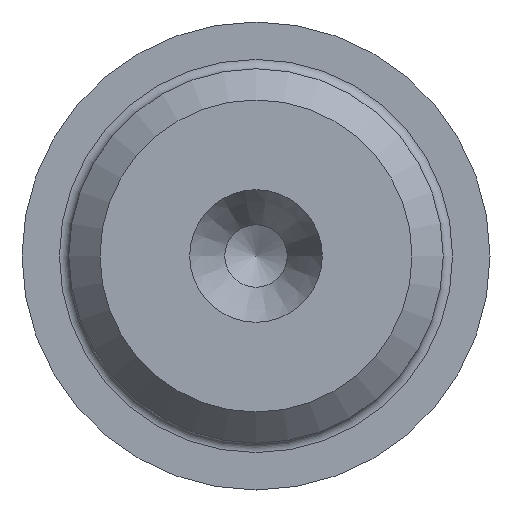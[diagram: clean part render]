
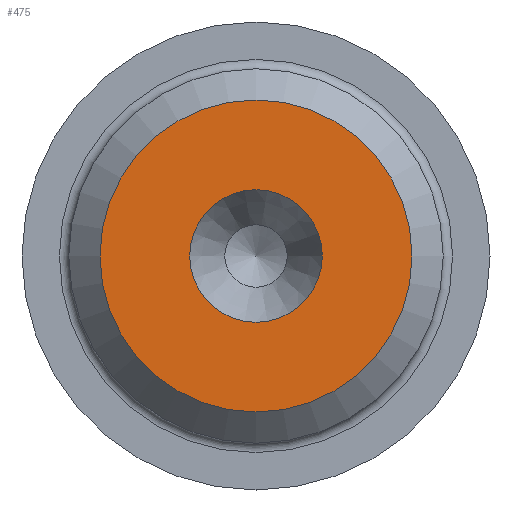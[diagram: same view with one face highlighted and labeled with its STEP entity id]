
A CAD part, left-side view. The second image highlights one B-rep face of the part: STEP entity #475.
In plain terms, the highlighted planar face has unit normal (-1, 0, 0).
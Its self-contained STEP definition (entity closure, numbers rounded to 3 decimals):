
#40=FACE_BOUND('',#92,.T.);
#47=PLANE('',#532);
#60=FACE_OUTER_BOUND('',#91,.T.);
#91=EDGE_LOOP('',(#335));
#92=EDGE_LOOP('',(#336));
#188=CIRCLE('',#531,5.);
#189=CIRCLE('',#533,2.125);
#216=VERTEX_POINT('',#742);
#217=VERTEX_POINT('',#746);
#264=EDGE_CURVE('',#216,#216,#188,.T.);
#265=EDGE_CURVE('',#217,#217,#189,.T.);
#335=ORIENTED_EDGE('',*,*,#264,.F.);
#336=ORIENTED_EDGE('',*,*,#265,.T.);
#475=ADVANCED_FACE('',(#60,#40),#47,.T.);
#531=AXIS2_PLACEMENT_3D('',#744,#596,#597);
#532=AXIS2_PLACEMENT_3D('',#745,#598,#599);
#533=AXIS2_PLACEMENT_3D('',#747,#600,#601);
#596=DIRECTION('center_axis',(1.,0.,0.));
#597=DIRECTION('ref_axis',(0.,-1.,0.));
#598=DIRECTION('center_axis',(-1.,0.,0.));
#599=DIRECTION('ref_axis',(0.,0.,1.));
#600=DIRECTION('center_axis',(1.,0.,0.));
#601=DIRECTION('ref_axis',(0.,0.,-1.));
#742=CARTESIAN_POINT('',(0.,5.,0.));
#744=CARTESIAN_POINT('Origin',(0.,0.,0.));
#745=CARTESIAN_POINT('Origin',(0.,6.,0.));
#746=CARTESIAN_POINT('',(0.,-2.125,0.));
#747=CARTESIAN_POINT('Origin',(0.,0.,0.));
